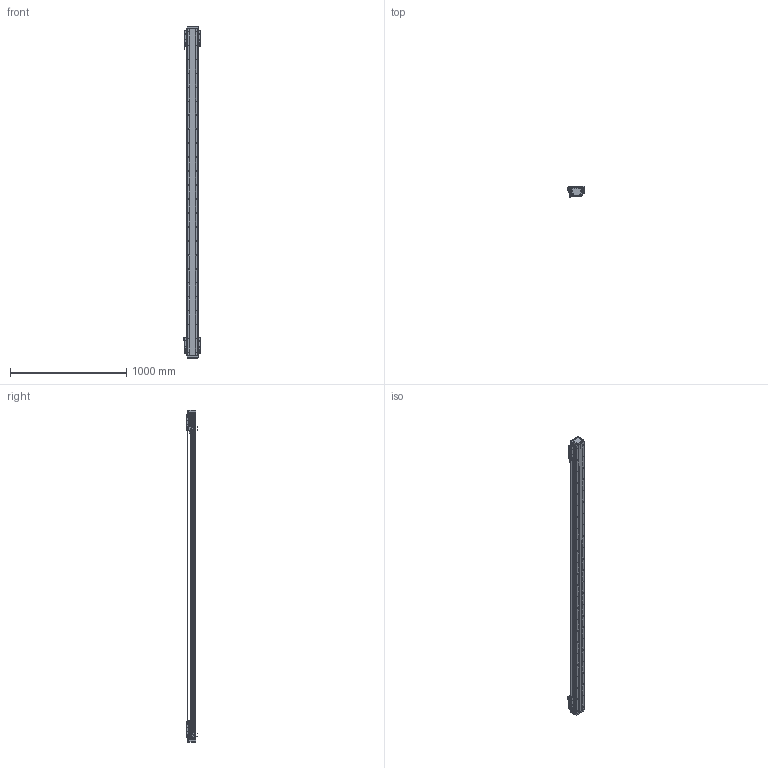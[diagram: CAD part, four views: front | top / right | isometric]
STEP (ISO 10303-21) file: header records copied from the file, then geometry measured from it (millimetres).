
FILE_DESCRIPTION (( 'STEP AP203' ), '1' );
FILE_NAME ('DA-B95-2-B15-T2480-C010-0.2 直线电机.STEP', '2023-05-06T06:40:11', ( '微软用户' ), ( '微软中国' ), 'SwSTEP 2.0', 'SolidWorks 2019', '' );
FILE_SCHEMA (( 'CONFIG_CONTROL_DESIGN' ));
Length unit declared in the file: millimetre
Products named in the file (34): 复件 DA95-B15 钢带盖板^DA-A95-B15-T-C010-0.2-N 直线电机; 复件 DKW-GYP-ZJ-00 中间光电感应片^DA-A95-B15-T-C010-0.2-N 直线电机; IU-BU95-L-00 菁釱_L2820; 复件 复件 18252-0001-002-00 钢带垫块^DA-A95-B15-T-C010-0.2-N 直线电机; DA95-HXJ-00 缓冲橡胶^DA-A95-B15-T-C010-0.2-N 直线电机; 葩璃 BKMA01-W060-TRL^DA-A95-B15-T-C010-0.2-N 眻盄萇儂; 复件 复件 18252-0001-004-00 钢带端盖^DA-A95-B15-T-C010-0.2-N 直线电机; 葩璃 DA95-B15-DP--B-00 菜えB^66245-BU95-V 幗紩賑怢; DA-A95-GYP-00 光电感应片^DA-A95-B15-T-C010-0.2-N 直线电机; LMDK-2-R001-V5-L02-C1-F00，0.2M 读数头^DA-A95-B15-T-C010-0.2-N 直线电机_DMA-010-0.2; 复件 66245-BU95-HT-V-01 滑动台板^66245-BU95-V-00 一体化滑动台板; 复件 复件 18252-0001-003-00 钢带拉块^DA-A95-B15-T-C010-0.2-N 直线电机; 复件 纯铜油杯 6x6mm^66245-BU95-V 滚珠滑台; 复件 DA95-B15-YB-B-00 压板B^66245-BU95-V 滚珠滑台; 复件 六角薄螺母 M3^DA-A95-B15-T-C010-0.2-N 直线电机_GB_FASTENER_NUT_STNAB M3-C; B15 XD-U-02L ｴﾅﾕ､ｳﾟ^DA-A95-B15-T-C010-0.2-N ﾖｱﾏﾟｵ扈銈XD-U-02L; 葩璃 BKM015-W060-C1-TP-DA-0.2^DA-A95-B15-T-C010-0.2-N 眻盄萇儂; IU-BU95-L 菁釱絳寢; 66245-BU95-V-00 珨极趙賑雄怢啣; 复件 DKW-HXJ-JY-00 缓冲橡胶^DA-A95-B15-T-C010-0.2-N 直线电机; 葩璃 DA95-B15-DP-A-00 菜えA^66245-BU95-V 幗紩賑怢; 复件 DA95-HK-GT-00 滑块钢轨^66245-BU95-V-00 一体化滑动台板; 复件 DA95-DB-00  挡板^66245-BU95-V 滚珠滑台; 66245-BU95-V 幗紩賑怢; PM-T45 光电开关^DA-A95-B15-T-C010-0.2-N 直线电机; 复件 DA95-DK-00 挡块^66245-BU95-V 滚珠滑台; 复件 DKW-KGZ-ZJ-00 中间光电开关支架^DA-A95-B15-T-C010-0.2-N 直线电机; 葩璃 PM-Y45^DA-A95-B15-T-C010-0.2-N 眻盄萇儂; 复件 DA95-MFP-01 密封片^66245-BU95-V 滚珠滑台; 复件 DA95-B15-YB-A-00 压板A^66245-BU95-V 滚珠滑台; 葩璃 DA95-GT-T-00^IU-BU95-L 菁釱絳寢_DA95; DA-B95-2-B15-T2480-C010-0.2 眻盄萇儂
Assembly tree (80 placements, depth 4):
  DA-B95-2-B15-T2480-C010-0.2 眻盄萇儂
    IU-BU95-L 菁釱絳寢
      IU-BU95-L-00 菁釱_L2820
      葩璃 DA95-GT-T-00^IU-BU95-L 菁釱絳寢_DA95  x2
    66245-BU95-V 幗紩賑怢
      66245-BU95-V-00 珨极趙賑雄怢啣
        复件 66245-BU95-HT-V-01 滑动台板^66245-BU95-V-00 一体化滑动台板
        复件 DA95-HK-GT-00 滑块钢轨^66245-BU95-V-00 一体化滑动台板  x2
      葩璃 DA95-B15-DP-A-00 菜えA^66245-BU95-V 幗紩賑怢
      复件 DA95-B15-YB-A-00 压板A^66245-BU95-V 滚珠滑台
      复件 DA95-B15-YB-B-00 压板B^66245-BU95-V 滚珠滑台
      复件 DA95-DB-00  挡板^66245-BU95-V 滚珠滑台  x4
      复件 DA95-DK-00 挡块^66245-BU95-V 滚珠滑台  x2
      复件 DA95-MFP-01 密封片^66245-BU95-V 滚珠滑台  x4
      复件 纯铜油杯 6x6mm^66245-BU95-V 滚珠滑台  x2
      葩璃 DA95-B15-DP--B-00 菜えB^66245-BU95-V 幗紩賑怢
    66245-BU95-V 幗紩賑怢
      66245-BU95-V-00 珨极趙賑雄怢啣
        复件 66245-BU95-HT-V-01 滑动台板^66245-BU95-V-00 一体化滑动台板
        复件 DA95-HK-GT-00 滑块钢轨^66245-BU95-V-00 一体化滑动台板  x2
      葩璃 DA95-B15-DP-A-00 菜えA^66245-BU95-V 幗紩賑怢
      复件 DA95-B15-YB-A-00 压板A^66245-BU95-V 滚珠滑台
      复件 DA95-B15-YB-B-00 压板B^66245-BU95-V 滚珠滑台
      复件 DA95-DB-00  挡板^66245-BU95-V 滚珠滑台  x4
      复件 DA95-DK-00 挡块^66245-BU95-V 滚珠滑台  x2
      复件 DA95-MFP-01 密封片^66245-BU95-V 滚珠滑台  x4
      复件 纯铜油杯 6x6mm^66245-BU95-V 滚珠滑台  x2
      葩璃 DA95-B15-DP--B-00 菜えB^66245-BU95-V 幗紩賑怢
    DA-A95-GYP-00 光电感应片^DA-A95-B15-T-C010-0.2-N 直线电机  x2
    LMDK-2-R001-V5-L02-C1-F00，0.2M 读数头^DA-A95-B15-T-C010-0.2-N 直线电机_DMA-010-0.2  x2
    复件 DKW-KGZ-ZJ-00 中间光电开关支架^DA-A95-B15-T-C010-0.2-N 直线电机
    葩璃 PM-Y45^DA-A95-B15-T-C010-0.2-N 眻盄萇儂
    复件 DKW-GYP-ZJ-00 中间光电感应片^DA-A95-B15-T-C010-0.2-N 直线电机
    葩璃 BKM015-W060-C1-TP-DA-0.2^DA-A95-B15-T-C010-0.2-N 眻盄萇儂  x2
    复件 DKW-HXJ-JY-00 缓冲橡胶^DA-A95-B15-T-C010-0.2-N 直线电机  x2
    PM-T45 光电开关^DA-A95-B15-T-C010-0.2-N 直线电机  x4
    B15 XD-U-02L ｴﾅﾕ､ｳﾟ^DA-A95-B15-T-C010-0.2-N ﾖｱﾏﾟｵ扈銈XD-U-02L
    复件 复件 18252-0001-003-00 钢带拉块^DA-A95-B15-T-C010-0.2-N 直线电机  x2
    复件 复件 18252-0001-002-00 钢带垫块^DA-A95-B15-T-C010-0.2-N 直线电机  x2
    复件 复件 18252-0001-004-00 钢带端盖^DA-A95-B15-T-C010-0.2-N 直线电机  x2
    复件 DA95-B15 钢带盖板^DA-A95-B15-T-C010-0.2-N 直线电机
    DA95-HXJ-00 缓冲橡胶^DA-A95-B15-T-C010-0.2-N 直线电机  x4
    葩璃 BKMA01-W060-TRL^DA-A95-B15-T-C010-0.2-N 眻盄萇儂
    复件 六角薄螺母 M3^DA-A95-B15-T-C010-0.2-N 直线电机_GB_FASTENER_NUT_STNAB M3-C  x6
Bounding box: 145.4 x 90.2 x 2856 mm (x, y, z)
Volume: 9120989.3 mm3; surface area: 3033924.6 mm2
Topology: 75 solids, 93 shells, 4340 faces, 12340 edges, 7839 vertices
Faces by surface type: cylinder 2261, plane 1547, cone 464, torus 64, sphere 4
Entity records: 108298 total; most frequent: CARTESIAN_POINT 28964, ORIENTED_EDGE 16038, DIRECTION 15382, EDGE_CURVE 8019, AXIS2_PLACEMENT_3D 5865, VERTEX_POINT 5241, LINE 3652, VECTOR 3652
